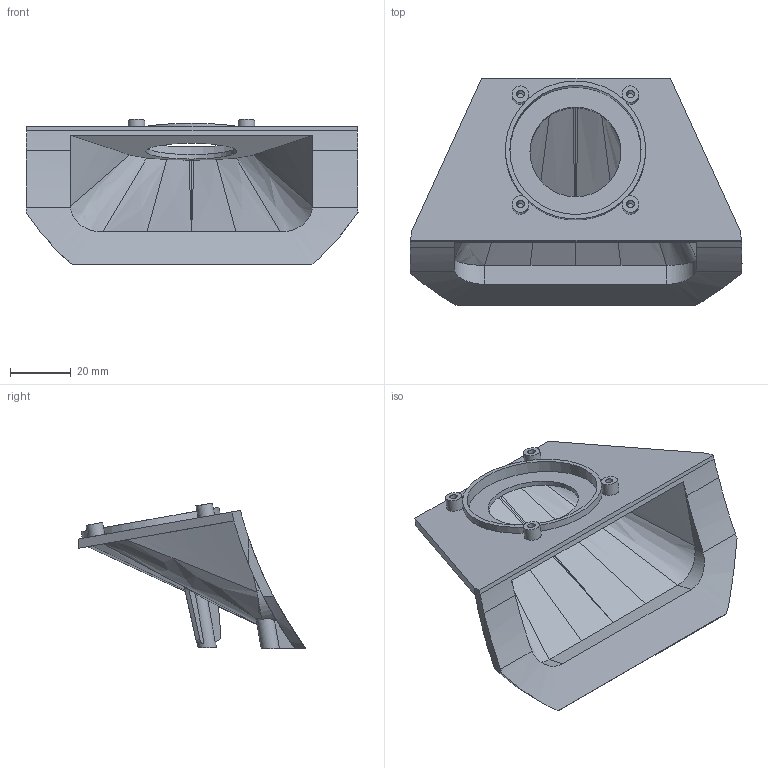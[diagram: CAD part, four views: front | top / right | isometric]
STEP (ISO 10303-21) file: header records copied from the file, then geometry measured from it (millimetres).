
FILE_DESCRIPTION(/* description */ ('STEP AP242 Edition 2','CAx-IF Rec.Pracs.---Representation and Presentation of Product Manufacturing Information (PMI)---4.0---2014-10-13','CAx-IF Rec.Pracs.---3D Tessellated Geometry---0.4---2014-09-14','2;1','CAx-IF Rec.Pracs.---User Defined Attributes---1.5---2016-08-15'),/* implementation_level */ '2;1');
FILE_NAME(/* name */ 'Assy_ForMFG - KD-H-105X_Spkr_Hldr',/* time_stamp */ '2026-05-15T19:56:46Z',/* author */ (''),/* organization */ (''),/* preprocessor_version */ 'ST-DEVELOPER v20',/* originating_system */ 'ONSHAPE BY PTC INC, 1.215',/* authorisation */ ' ');
FILE_SCHEMA (('AP242_MANAGED_MODEL_BASED_3D_ENGINEERING_MIM_LF { 1 0 10303 442 3 1 4 }'));
Length unit declared in the file: metre
Products named in the file (1): KD-H-105X_Spkr_Hldr
Bounding box: 109.43 x 74.94 x 48.08 mm (x, y, z)
Volume: 33000.3 mm3; surface area: 27365.6 mm2
Topology: 1 solids, 1 shells, 128 faces, 349 edges, 233 vertices
Faces by surface type: plane 59, cylinder 42, bspline 27
Full cylindrical faces by diameter (mm): 2.5 x8, 5.5 x4, 6 x2, 30 x1, 43.239 x1
Entity records: 5619 total; most frequent: CARTESIAN_POINT 2704, ORIENTED_EDGE 636, DIRECTION 511, EDGE_CURVE 318, VERTEX_POINT 218, AXIS2_PLACEMENT_3D 191, EDGE_LOOP 156, FACE_BOUND 156
